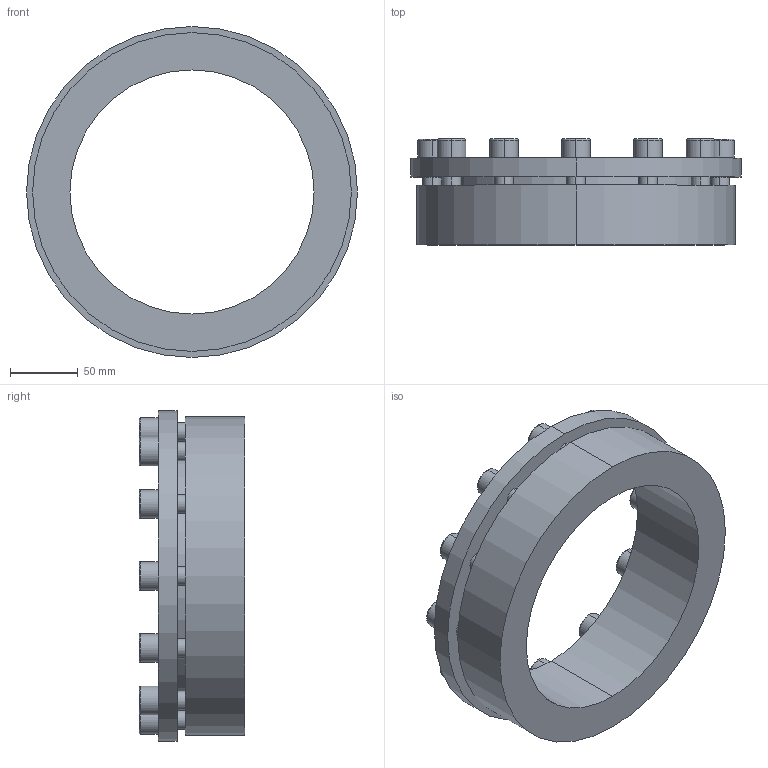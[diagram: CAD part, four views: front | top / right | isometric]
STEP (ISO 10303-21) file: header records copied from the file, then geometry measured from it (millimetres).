
FILE_DESCRIPTION (( 'STEP AP203' ), '1' );
FILE_NAME ('PL-H6 180-235.STEP', '2021-10-23T01:39:41', ( '' ), ( '' ), 'SwSTEP 2.0', 'SolidWorks 2018', '' );
FILE_SCHEMA (( 'CONFIG_CONTROL_DESIGN' ));
Length unit declared in the file: millimetre
Products named in the file (1): PL-H6 180-235
Bounding box: 244 x 78 x 244 mm (x, y, z)
Volume: 1165012.9 mm3; surface area: 168777.7 mm2
Topology: 1 solids, 1 shells, 180 faces, 432 edges, 280 vertices
Faces by surface type: plane 100, cylinder 56, torus 24
Entity records: 5373 total; most frequent: DIRECTION 954, CARTESIAN_POINT 893, ORIENTED_EDGE 864, EDGE_CURVE 432, AXIS2_PLACEMENT_3D 341, VERTEX_POINT 280, VECTOR 272, LINE 272
